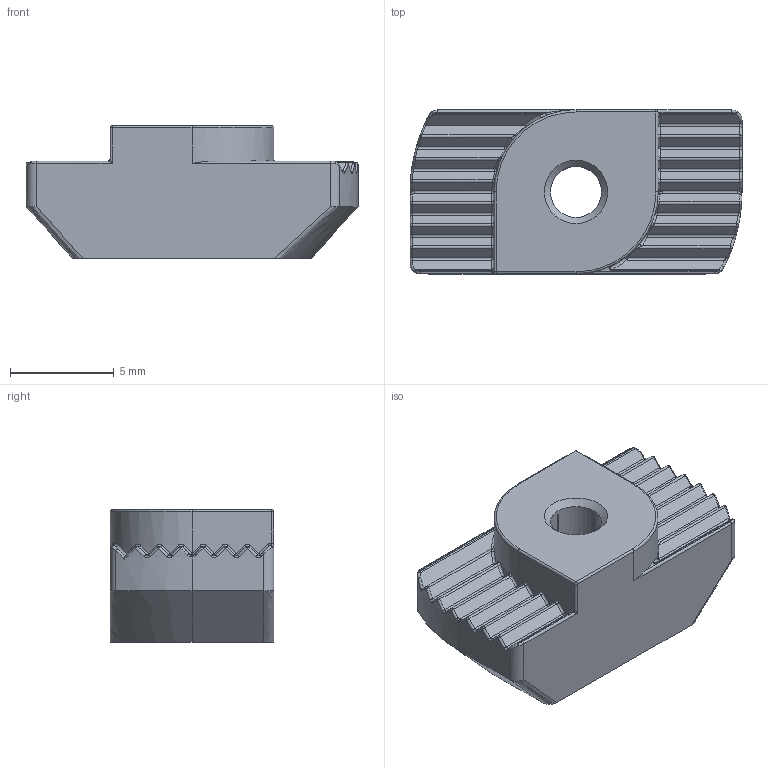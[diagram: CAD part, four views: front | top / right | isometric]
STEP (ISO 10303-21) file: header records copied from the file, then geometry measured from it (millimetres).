
FILE_DESCRIPTION(('FreeCAD Model'),'2;1');
FILE_NAME('Open CASCADE Shape Model','2021-05-04T11:29:03',('Author'),( ''),'Open CASCADE STEP processor 7.5','FreeCAD','Unknown');
FILE_SCHEMA(('AUTOMOTIVE_DESIGN { 1 0 10303 214 1 1 1 1 }'));
Length unit declared in the file: millimetre
Products named in the file (1): S208HM3BM
Bounding box: 16 x 7.9 x 6.4 mm (x, y, z)
Volume: 580 mm3; surface area: 547.5 mm2
Topology: 1 solids, 1 shells, 258 faces, 597 edges, 342 vertices
Faces by surface type: cylinder 77, bspline 70, plane 62, sphere 28, torus 20, cone 1
Full cylindrical faces by diameter (mm): 2.459 x1
Entity records: 21322 total; most frequent: CARTESIAN_POINT 9557, DIRECTION 1970, ORIENTED_EDGE 1190, PCURVE 1190, DEFINITIONAL_REPRESENTATION 1190, LINE 969, VECTOR 969, EDGE_CURVE 595
